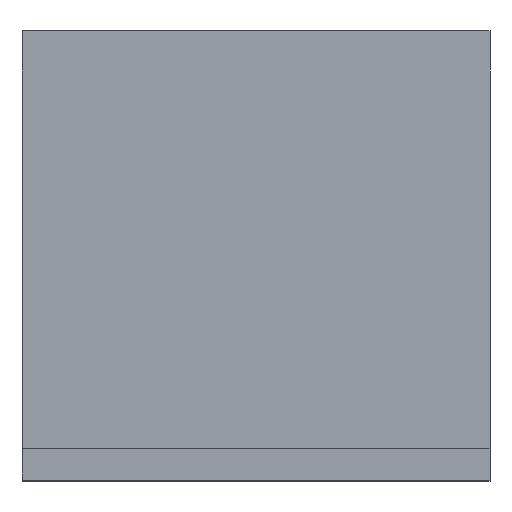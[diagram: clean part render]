
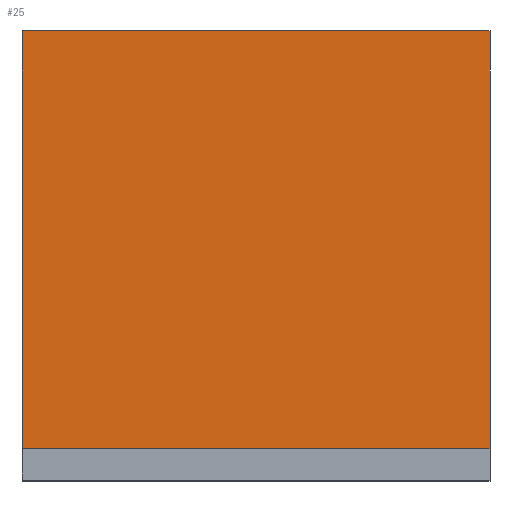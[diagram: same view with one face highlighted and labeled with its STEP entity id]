
A CAD part, top view. The second image highlights one B-rep face of the part: STEP entity #25.
In plain terms, the highlighted planar face has unit normal (0, 0, 1).
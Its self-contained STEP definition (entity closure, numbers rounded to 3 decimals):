
#25=ADVANCED_FACE('',(#43),#275,.T.);
#43=FACE_OUTER_BOUND('',#61,.T.);
#61=EDGE_LOOP('',(#106,#107,#108,#109));
#106=ORIENTED_EDGE('',*,*,#183,.F.);
#107=ORIENTED_EDGE('',*,*,#176,.F.);
#108=ORIENTED_EDGE('',*,*,#182,.F.);
#109=ORIENTED_EDGE('',*,*,#180,.F.);
#176=EDGE_CURVE('',#255,#254,#218,.T.);
#180=EDGE_CURVE('',#256,#257,#222,.T.);
#182=EDGE_CURVE('',#257,#255,#224,.T.);
#183=EDGE_CURVE('',#254,#256,#225,.T.);
#218=B_SPLINE_CURVE_WITH_KNOTS('',1,(#490,#491),.UNSPECIFIED.,.F.,.F.,(2,
2),(-1.955,0.),.UNSPECIFIED.);
#222=B_SPLINE_CURVE_WITH_KNOTS('',1,(#498,#499),.UNSPECIFIED.,.F.,.F.,(2,
2),(-1.955,0.),.UNSPECIFIED.);
#224=B_SPLINE_CURVE_WITH_KNOTS('',1,(#502,#503),.UNSPECIFIED.,.F.,.F.,(2,
2),(0.,1.745),.UNSPECIFIED.);
#225=B_SPLINE_CURVE_WITH_KNOTS('',1,(#504,#505),.UNSPECIFIED.,.F.,.F.,(2,
2),(0.,1.745),.UNSPECIFIED.);
#254=VERTEX_POINT('',#442);
#255=VERTEX_POINT('',#443);
#256=VERTEX_POINT('',#444);
#257=VERTEX_POINT('',#445);
#275=PLANE('',#381);
#381=AXIS2_PLACEMENT_3D('',#423,#402,$);
#402=DIRECTION('',(0.,0.,1.));
#423=CARTESIAN_POINT('',(298.01,572.01,851.));
#442=CARTESIAN_POINT('',(298.,572.,851.));
#443=CARTESIAN_POINT('',(-298.,572.,851.));
#444=CARTESIAN_POINT('',(298.,40.,851.));
#445=CARTESIAN_POINT('',(-298.,40.,851.));
#490=CARTESIAN_POINT('',(-298.,572.,851.));
#491=CARTESIAN_POINT('',(298.,572.,851.));
#498=CARTESIAN_POINT('',(298.,40.,851.));
#499=CARTESIAN_POINT('',(-298.,40.,851.));
#502=CARTESIAN_POINT('',(-298.,40.,851.));
#503=CARTESIAN_POINT('',(-298.,572.,851.));
#504=CARTESIAN_POINT('',(298.,572.,851.));
#505=CARTESIAN_POINT('',(298.,40.,851.));
